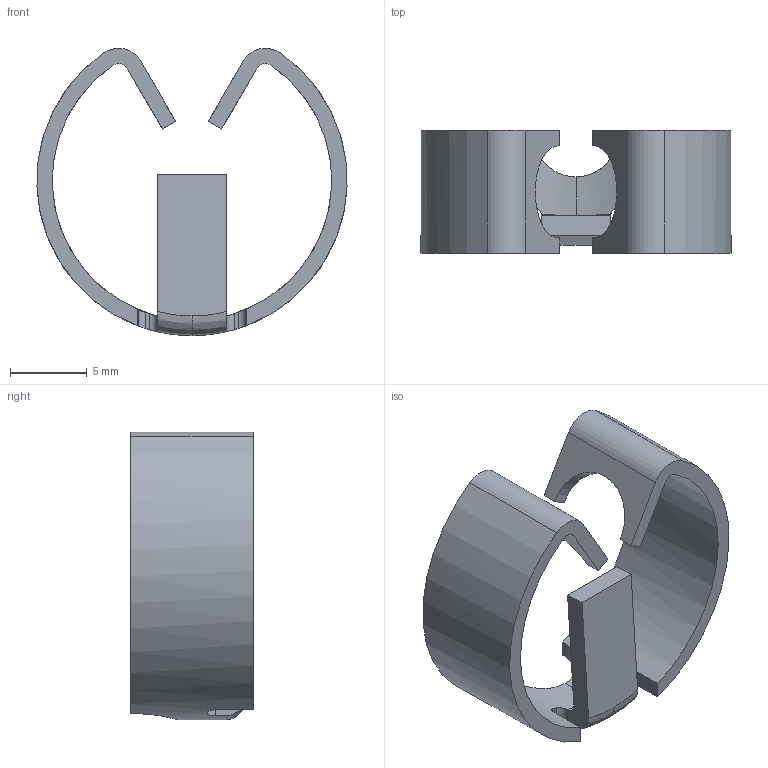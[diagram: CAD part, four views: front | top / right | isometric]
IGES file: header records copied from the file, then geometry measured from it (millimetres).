
Start section: 3D InterOp IGES (v. 2022 1.0.1), Spatial Corp. Copyright (c) 1999-2020.
Global section: file name: E557_CLIP_11.04.465 Worktop Connector Fix More steel spring.igs; native system: Spatial Corp.; preprocessor: 3D InterOp GENERIC/IGES 3.0; author: Noname; organization: Noname; date: 20251208.172001; units: millimetre
Bounding box: 20.18 x 8 x 18.7 mm (x, y, z)
Volume: 494.5 mm3; surface area: 1144.4 mm2
Topology: 1 solids, 1 shells, 43 faces, 121 edges, 80 vertices
Faces by surface type: extrusion 23, cylinder 16, bspline 4
